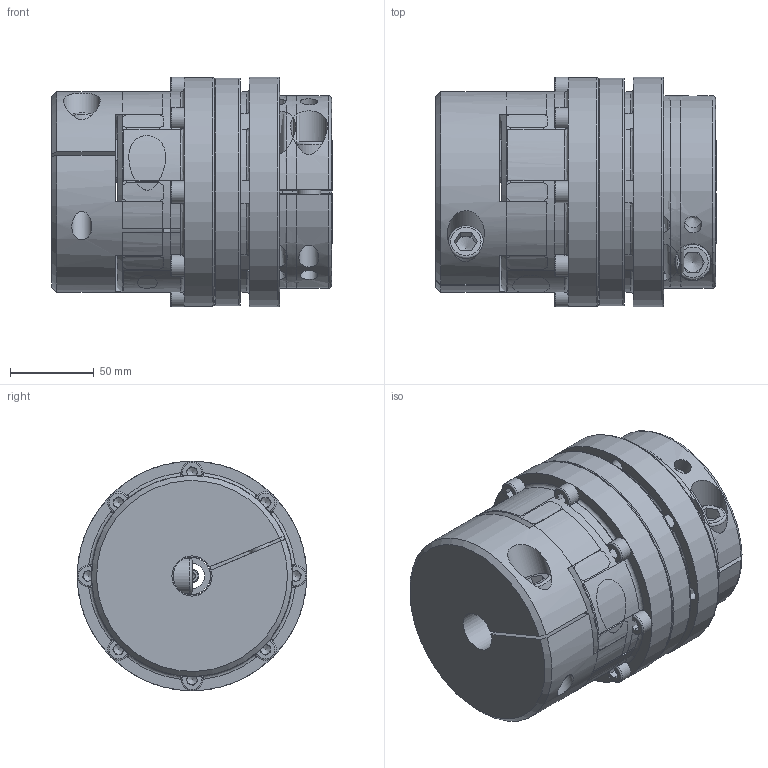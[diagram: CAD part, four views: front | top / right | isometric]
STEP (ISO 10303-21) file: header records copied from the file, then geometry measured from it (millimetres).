
FILE_DESCRIPTION( ( 'Unknown' ), '1' );
FILE_NAME( 'F:/JAKOB-STEP+IGES-Dateien/STEP-Dateien/SKB-EK/SKB-EK 800.stp', 'Unknown', ( 'Unknown' ), ( 'Unknown' ), 'XStep 1.0', 'Unknown', ' ' );
FILE_SCHEMA( ( 'CONFIG_CONTROL_DESIGN' ) );
Length unit declared in the file: millimetre
Products named in the file (12): Assem1; SKB 800; 23917267; KT102271; KT102587; KT102465; KT100274; SKB 700; Elastomerteil 5; KT101199; kt100627
Bounding box: 167.5 x 137 x 137 mm (x, y, z)
Surface area: 759210.4 mm2
Topology: 33 solids, 33 shells, 1396 faces, 3916 edges, 2511 vertices
Faces by surface type: plane 482, cylinder 476, cone 209, torus 181, sphere 48
Full cylindrical faces by diameter (mm): 1.5 x3, 2.5 x6, 6.8 x27, 8 x28, 8.6 x16, 10.5 x9, 12 x5, 13 x9, 14 x5, 14.5 x5, 15 x2, 21 x5, 22 x7, 22.5 x2, 27 x3, 58 x4, 67 x3, 69.8 x3, 70 x6, 73 x2, 78 x3, 82.8 x6, 97.6 x6, 110 x8, 115.4 x3, 115.8 x3, 119.8 x3, 130 x3, 132 x3, 136 x3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
Entity records: 19104 total; most frequent: CARTESIAN_POINT 5881, DIRECTION 2646, ORIENTED_EDGE 2568, EDGE_CURVE 1284, AXIS2_PLACEMENT_3D 1135, VERTEX_POINT 882, EDGE_LOOP 720, CIRCLE 600
